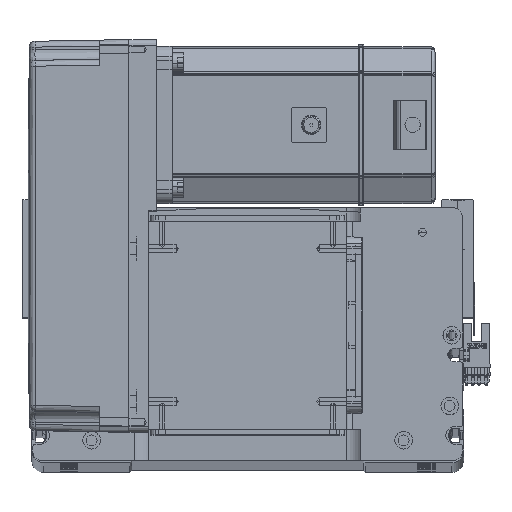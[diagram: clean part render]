
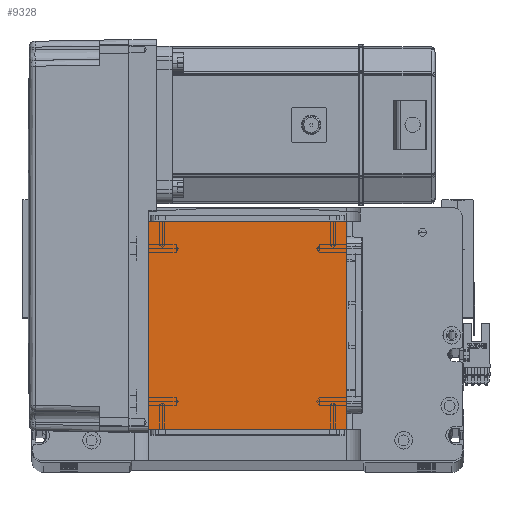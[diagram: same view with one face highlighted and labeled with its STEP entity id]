
A CAD part, top view. The second image highlights one B-rep face of the part: STEP entity #9328.
In plain terms, the highlighted planar face has unit normal (0, 0, 1).
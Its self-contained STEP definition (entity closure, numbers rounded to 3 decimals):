
#472 = CARTESIAN_POINT ( 'NONE',  ( 50.5, 122., 115. ) ) ;
#2031 = VERTEX_POINT ( 'NONE', #50617 ) ;
#2717 = FACE_OUTER_BOUND ( 'NONE', #25726, .T. ) ;
#5002 = DIRECTION ( 'NONE',  ( 0., 1., 0. ) ) ;
#5601 = VECTOR ( 'NONE', #35448, 1000. ) ;
#6182 = CARTESIAN_POINT ( 'NONE',  ( -50.5, 122., 115. ) ) ;
#6661 = VECTOR ( 'NONE', #39728, 1000. ) ;
#6966 = DIRECTION ( 'NONE',  ( -1., 0., 0. ) ) ;
#7527 = EDGE_CURVE ( 'NONE', #2031, #39601, #52164, .T. ) ;
#8369 = CARTESIAN_POINT ( 'NONE',  ( -50.5, 122., 115. ) ) ;
#9328 = ADVANCED_FACE ( 'NONE', ( #2717 ), #37051, .T. ) ;
#9475 = LINE ( 'NONE', #34983, #6661 ) ;
#12886 = ORIENTED_EDGE ( 'NONE', *, *, #7527, .T. ) ;
#14856 = DIRECTION ( 'NONE',  ( 0., 0., 1. ) ) ;
#15411 = EDGE_CURVE ( 'NONE', #28943, #53778, #9475, .T. ) ;
#19748 = CARTESIAN_POINT ( 'NONE',  ( 0., 0., 115. ) ) ;
#20576 = VECTOR ( 'NONE', #5002, 1000. ) ;
#25726 = EDGE_LOOP ( 'NONE', ( #52202, #54192, #53027, #12886 ) ) ;
#26309 = CARTESIAN_POINT ( 'NONE',  ( 50.5, 16., 115. ) ) ;
#28754 = LINE ( 'NONE', #57672, #5601 ) ;
#28943 = VERTEX_POINT ( 'NONE', #43893 ) ;
#34538 = VECTOR ( 'NONE', #6966, 1000. ) ;
#34983 = CARTESIAN_POINT ( 'NONE',  ( -50.5, 16., 115. ) ) ;
#35448 = DIRECTION ( 'NONE',  ( 0., -1., 0. ) ) ;
#37051 = PLANE ( 'NONE',  #46861 ) ;
#39601 = VERTEX_POINT ( 'NONE', #8369 ) ;
#39728 = DIRECTION ( 'NONE',  ( 1., 0., 0. ) ) ;
#43893 = CARTESIAN_POINT ( 'NONE',  ( -50.5, 16., 115. ) ) ;
#46063 = DIRECTION ( 'NONE',  ( 1., 0., 0. ) ) ;
#46861 = AXIS2_PLACEMENT_3D ( 'NONE', #19748, #14856, #46063 ) ;
#50617 = CARTESIAN_POINT ( 'NONE',  ( 50.5, 122., 115. ) ) ;
#52086 = EDGE_CURVE ( 'NONE', #39601, #28943, #28754, .T. ) ;
#52164 = LINE ( 'NONE', #6182, #34538 ) ;
#52202 = ORIENTED_EDGE ( 'NONE', *, *, #52086, .T. ) ;
#53027 = ORIENTED_EDGE ( 'NONE', *, *, #56095, .T. ) ;
#53778 = VERTEX_POINT ( 'NONE', #26309 ) ;
#54192 = ORIENTED_EDGE ( 'NONE', *, *, #15411, .T. ) ;
#56095 = EDGE_CURVE ( 'NONE', #53778, #2031, #56413, .T. ) ;
#56413 = LINE ( 'NONE', #472, #20576 ) ;
#57672 = CARTESIAN_POINT ( 'NONE',  ( -50.5, 122., 115. ) ) ;
